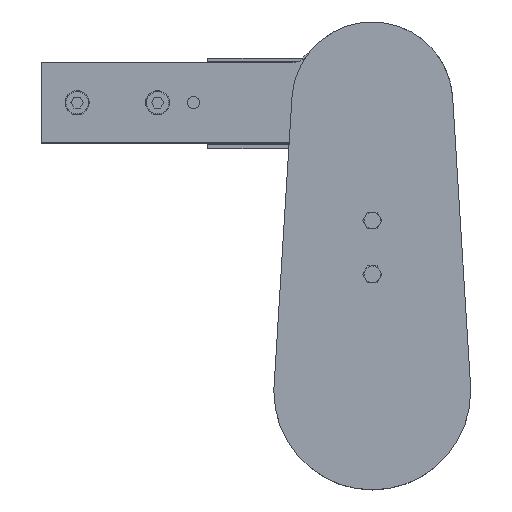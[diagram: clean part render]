
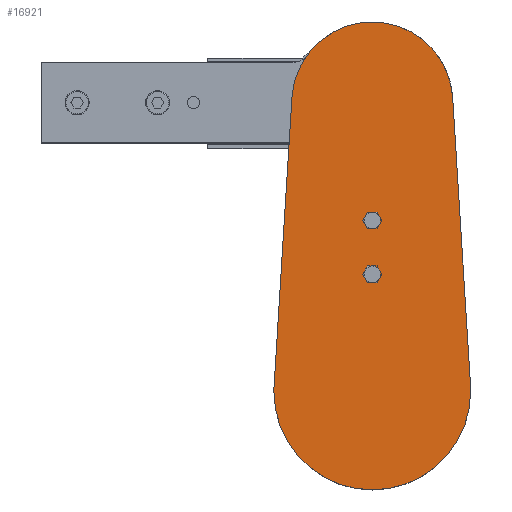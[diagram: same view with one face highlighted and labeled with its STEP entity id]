
A CAD part, top view. The second image highlights one B-rep face of the part: STEP entity #16921.
In plain terms, the highlighted planar face has unit normal (0, 0, 1).
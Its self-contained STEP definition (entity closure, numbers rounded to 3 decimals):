
#14 = DIRECTION ( 'NONE',  ( 0., 0., -1. ) ) ;
#93 = VERTEX_POINT ( 'NONE', #12472 ) ;
#156 = VECTOR ( 'NONE', #10745, 1000. ) ;
#259 = VERTEX_POINT ( 'NONE', #7507 ) ;
#415 = DIRECTION ( 'NONE',  ( -1., 0., 0. ) ) ;
#565 = EDGE_CURVE ( 'NONE', #4480, #15826, #7573, .T. ) ;
#620 = CARTESIAN_POINT ( 'NONE',  ( 0., -161.5, 179. ) ) ;
#733 = FACE_BOUND ( 'NONE', #8450, .T. ) ;
#989 = EDGE_LOOP ( 'NONE', ( #3034, #5905 ) ) ;
#1268 = CARTESIAN_POINT ( 'NONE',  ( 0., 0., 179. ) ) ;
#1383 = FACE_BOUND ( 'NONE', #989, .T. ) ;
#1780 = LINE ( 'NONE', #15879, #12525 ) ;
#2422 = DIRECTION ( 'NONE',  ( 0., 0., -1. ) ) ;
#2527 = CARTESIAN_POINT ( 'NONE',  ( 0., -96., 179. ) ) ;
#2618 = DIRECTION ( 'NONE',  ( 0., 0., 1. ) ) ;
#2841 = CARTESIAN_POINT ( 'NONE',  ( -3.5, -66., 179. ) ) ;
#2860 = DIRECTION ( 'NONE',  ( 0., 0., -1. ) ) ;
#3034 = ORIENTED_EDGE ( 'NONE', *, *, #7318, .F. ) ;
#3837 = ORIENTED_EDGE ( 'NONE', *, *, #16616, .F. ) ;
#3991 = EDGE_CURVE ( 'NONE', #14912, #4059, #8334, .T. ) ;
#4059 = VERTEX_POINT ( 'NONE', #17616 ) ;
#4121 = DIRECTION ( 'NONE',  ( 0., 0., -1. ) ) ;
#4470 = CIRCLE ( 'NONE', #8849, 55. ) ;
#4480 = VERTEX_POINT ( 'NONE', #6434 ) ;
#4485 = EDGE_CURVE ( 'NONE', #10995, #13711, #8117, .T. ) ;
#4866 = DIRECTION ( 'NONE',  ( 0., 0., -1. ) ) ;
#5183 = AXIS2_PLACEMENT_3D ( 'NONE', #6887, #14, #17573 ) ;
#5341 = ORIENTED_EDGE ( 'NONE', *, *, #13196, .F. ) ;
#5397 = DIRECTION ( 'NONE',  ( -1., 0., 0. ) ) ;
#5905 = ORIENTED_EDGE ( 'NONE', *, *, #565, .F. ) ;
#6434 = CARTESIAN_POINT ( 'NONE',  ( 3.5, -66., 179. ) ) ;
#6544 = ORIENTED_EDGE ( 'NONE', *, *, #12128, .F. ) ;
#6547 = DIRECTION ( 'NONE',  ( -1., 0., 0. ) ) ;
#6586 = AXIS2_PLACEMENT_3D ( 'NONE', #620, #4866, #12947 ) ;
#6793 = AXIS2_PLACEMENT_3D ( 'NONE', #8651, #11172, #415 ) ;
#6887 = CARTESIAN_POINT ( 'NONE',  ( 0., -161.5, 179. ) ) ;
#7318 = EDGE_CURVE ( 'NONE', #15826, #4480, #11247, .T. ) ;
#7448 = CARTESIAN_POINT ( 'NONE',  ( -54.894, -158.094, 179. ) ) ;
#7507 = CARTESIAN_POINT ( 'NONE',  ( 55., -161.5, 179. ) ) ;
#7573 = CIRCLE ( 'NONE', #9091, 3.5 ) ;
#7718 = CIRCLE ( 'NONE', #6793, 3.5 ) ;
#7736 = VERTEX_POINT ( 'NONE', #16649 ) ;
#7761 = CARTESIAN_POINT ( 'NONE',  ( 0., -66., 179. ) ) ;
#7849 = CIRCLE ( 'NONE', #5183, 55. ) ;
#7850 = ORIENTED_EDGE ( 'NONE', *, *, #3991, .F. ) ;
#8117 = CIRCLE ( 'NONE', #13342, 3.5 ) ;
#8334 = LINE ( 'NONE', #17725, #156 ) ;
#8450 = EDGE_LOOP ( 'NONE', ( #14256, #16525 ) ) ;
#8643 = DIRECTION ( 'NONE',  ( 0., 0., 1. ) ) ;
#8651 = CARTESIAN_POINT ( 'NONE',  ( 0., -96., 179. ) ) ;
#8849 = AXIS2_PLACEMENT_3D ( 'NONE', #14739, #2422, #14624 ) ;
#9091 = AXIS2_PLACEMENT_3D ( 'NONE', #7761, #8643, #16944 ) ;
#9634 = AXIS2_PLACEMENT_3D ( 'NONE', #9747, #2860, #11062 ) ;
#9747 = CARTESIAN_POINT ( 'NONE',  ( 0., 0., 179. ) ) ;
#10407 = CIRCLE ( 'NONE', #9634, 45. ) ;
#10745 = DIRECTION ( 'NONE',  ( 0.062, -0.998, 0. ) ) ;
#10811 = PLANE ( 'NONE',  #17388 ) ;
#10816 = CARTESIAN_POINT ( 'NONE',  ( 0., -66., 179. ) ) ;
#10872 = EDGE_CURVE ( 'NONE', #11880, #93, #1780, .T. ) ;
#10995 = VERTEX_POINT ( 'NONE', #17817 ) ;
#11047 = DIRECTION ( 'NONE',  ( -1., 0., 0. ) ) ;
#11062 = DIRECTION ( 'NONE',  ( -1., 0., 0. ) ) ;
#11172 = DIRECTION ( 'NONE',  ( 0., 0., 1. ) ) ;
#11247 = CIRCLE ( 'NONE', #17081, 3.5 ) ;
#11789 = DIRECTION ( 'NONE',  ( 0.062, 0.998, 0. ) ) ;
#11880 = VERTEX_POINT ( 'NONE', #7448 ) ;
#12128 = EDGE_CURVE ( 'NONE', #259, #7736, #4470, .T. ) ;
#12472 = CARTESIAN_POINT ( 'NONE',  ( -44.914, 2.786, 179. ) ) ;
#12525 = VECTOR ( 'NONE', #11789, 1000. ) ;
#12571 = CIRCLE ( 'NONE', #6586, 55. ) ;
#12947 = DIRECTION ( 'NONE',  ( -1., 0., 0. ) ) ;
#13196 = EDGE_CURVE ( 'NONE', #7736, #11880, #7849, .T. ) ;
#13278 = EDGE_CURVE ( 'NONE', #93, #14912, #10407, .T. ) ;
#13342 = AXIS2_PLACEMENT_3D ( 'NONE', #2527, #16027, #6547 ) ;
#13711 = VERTEX_POINT ( 'NONE', #17287 ) ;
#14256 = ORIENTED_EDGE ( 'NONE', *, *, #4485, .F. ) ;
#14624 = DIRECTION ( 'NONE',  ( -1., 0., 0. ) ) ;
#14739 = CARTESIAN_POINT ( 'NONE',  ( 0., -161.5, 179. ) ) ;
#14764 = EDGE_CURVE ( 'NONE', #13711, #10995, #7718, .T. ) ;
#14912 = VERTEX_POINT ( 'NONE', #15978 ) ;
#15587 = FACE_OUTER_BOUND ( 'NONE', #16197, .T. ) ;
#15826 = VERTEX_POINT ( 'NONE', #2841 ) ;
#15879 = CARTESIAN_POINT ( 'NONE',  ( -44.914, 2.786, 179. ) ) ;
#15978 = CARTESIAN_POINT ( 'NONE',  ( 44.914, 2.786, 179. ) ) ;
#16027 = DIRECTION ( 'NONE',  ( 0., 0., 1. ) ) ;
#16197 = EDGE_LOOP ( 'NONE', ( #16634, #17253, #5341, #6544, #3837, #7850 ) ) ;
#16525 = ORIENTED_EDGE ( 'NONE', *, *, #14764, .F. ) ;
#16616 = EDGE_CURVE ( 'NONE', #4059, #259, #12571, .T. ) ;
#16634 = ORIENTED_EDGE ( 'NONE', *, *, #13278, .F. ) ;
#16649 = CARTESIAN_POINT ( 'NONE',  ( -55., -161.5, 179. ) ) ;
#16921 = ADVANCED_FACE ( 'NONE', ( #1383, #733, #15587 ), #10811, .F. ) ;
#16944 = DIRECTION ( 'NONE',  ( -1., 0., 0. ) ) ;
#17081 = AXIS2_PLACEMENT_3D ( 'NONE', #10816, #2618, #5397 ) ;
#17253 = ORIENTED_EDGE ( 'NONE', *, *, #10872, .F. ) ;
#17287 = CARTESIAN_POINT ( 'NONE',  ( 3.5, -96., 179. ) ) ;
#17388 = AXIS2_PLACEMENT_3D ( 'NONE', #1268, #4121, #11047 ) ;
#17573 = DIRECTION ( 'NONE',  ( -1., 0., 0. ) ) ;
#17616 = CARTESIAN_POINT ( 'NONE',  ( 54.894, -158.094, 179. ) ) ;
#17725 = CARTESIAN_POINT ( 'NONE',  ( 44.914, 2.786, 179. ) ) ;
#17817 = CARTESIAN_POINT ( 'NONE',  ( -3.5, -96., 179. ) ) ;
